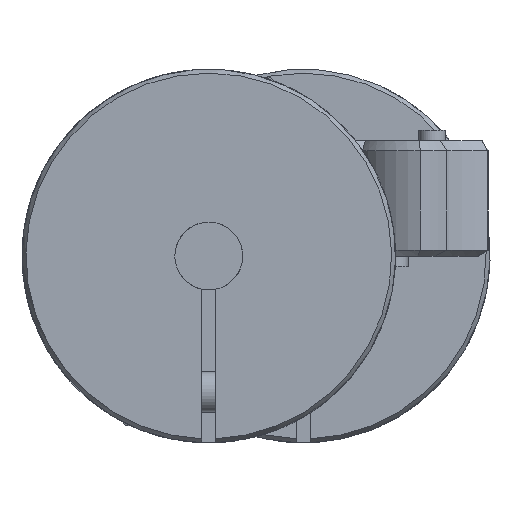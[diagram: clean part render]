
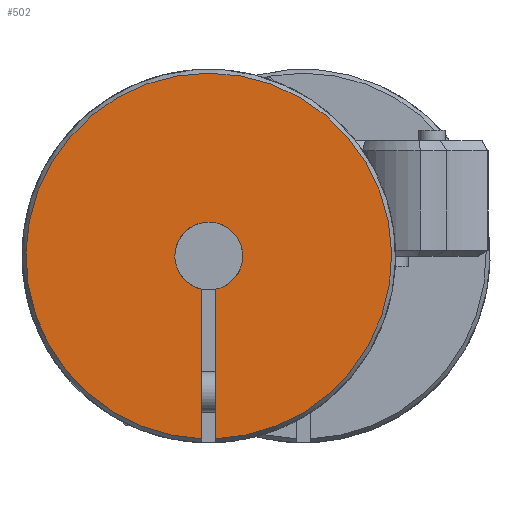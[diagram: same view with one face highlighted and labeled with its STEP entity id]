
A CAD part, left-side view. The second image highlights one B-rep face of the part: STEP entity #502.
In plain terms, the highlighted planar face has unit normal (-1, 0, 0).
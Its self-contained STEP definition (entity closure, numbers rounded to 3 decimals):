
#502 = ADVANCED_FACE( 'NONE', ( #1050 ), #1051, .F. );
#1050 = FACE_OUTER_BOUND( '', #1498, .T. );
#1051 = PLANE( '', #1499 );
#1498 = EDGE_LOOP( '', ( #2906, #2907, #2908, #2909 ) );
#1499 = AXIS2_PLACEMENT_3D( '', #2910, #2911, #2912 );
#2906 = ORIENTED_EDGE( '', *, *, #3406, .T. );
#2907 = ORIENTED_EDGE( '', *, *, #3415, .T. );
#2908 = ORIENTED_EDGE( '', *, *, #3417, .T. );
#2909 = ORIENTED_EDGE( '', *, *, #3402, .F. );
#2910 = CARTESIAN_POINT( '', ( 0., 5., 0. ) );
#2911 = DIRECTION( '', ( 1., 0., 0. ) );
#2912 = DIRECTION( '', ( 0., 1., 0. ) );
#3402 = EDGE_CURVE( 'NONE', #4107, #4109, #4110, .F. );
#3406 = EDGE_CURVE( 'NONE', #4107, #4113, #4115, .T. );
#3415 = EDGE_CURVE( 'NONE', #4113, #4125, #4127, .F. );
#3417 = EDGE_CURVE( 'NONE', #4125, #4109, #4129, .T. );
#4107 = VERTEX_POINT( 'NONE', #5452 );
#4109 = VERTEX_POINT( 'NONE', #5455 );
#4110 = CIRCLE( '', #5456, 5. );
#4113 = VERTEX_POINT( 'NONE', #5461 );
#4115 = LINE( '', #5466, #5467 );
#4125 = VERTEX_POINT( 'NONE', #5483 );
#4127 = CIRCLE( '', #5488, 26.923 );
#4129 = LINE( '', #5490, #5491 );
#5452 = CARTESIAN_POINT( '', ( 0., -1., -4.899 ) );
#5455 = CARTESIAN_POINT( '', ( 0., 1., -4.899 ) );
#5456 = AXIS2_PLACEMENT_3D( '', #6194, #6195, #6196 );
#5461 = CARTESIAN_POINT( '', ( 0., -1., -26.904 ) );
#5466 = CARTESIAN_POINT( '', ( 0., -1., 0. ) );
#5467 = VECTOR( '', #6199, 1000. );
#5483 = CARTESIAN_POINT( '', ( 0., 1., -26.904 ) );
#5488 = AXIS2_PLACEMENT_3D( '', #6215, #6216, #6217 );
#5490 = CARTESIAN_POINT( '', ( 0., 1., 0. ) );
#5491 = VECTOR( '', #6221, 1000. );
#6194 = CARTESIAN_POINT( '', ( 0., 0., 0. ) );
#6195 = DIRECTION( '', ( 1., 0., 0. ) );
#6196 = DIRECTION( '', ( 0., 0., -1. ) );
#6199 = DIRECTION( '', ( 0., 0., -1. ) );
#6215 = CARTESIAN_POINT( '', ( 0., 0., 0. ) );
#6216 = DIRECTION( '', ( 1., 0., 0. ) );
#6217 = DIRECTION( '', ( 0., 0., -1. ) );
#6221 = DIRECTION( '', ( 0., 0., 1. ) );
